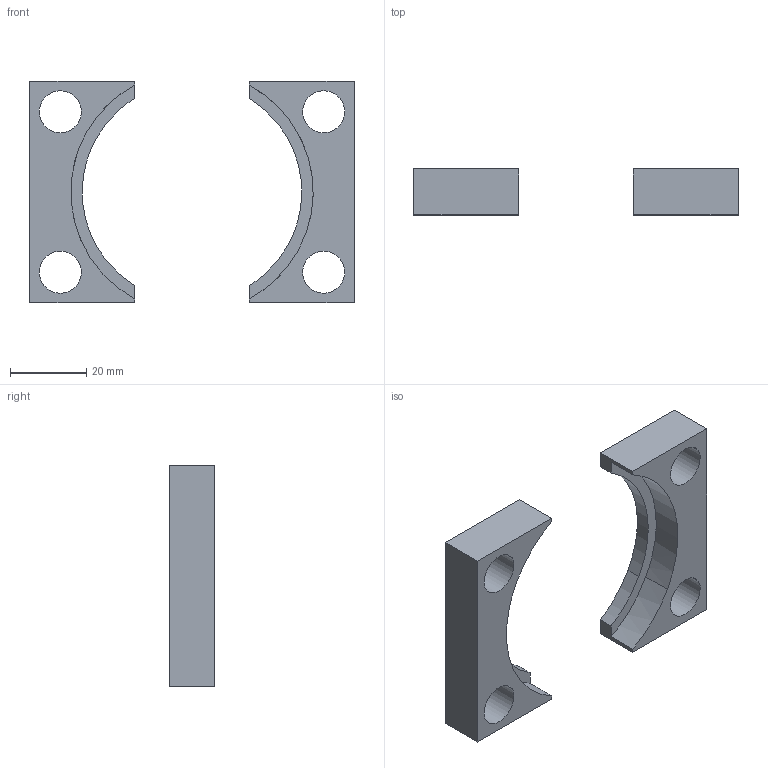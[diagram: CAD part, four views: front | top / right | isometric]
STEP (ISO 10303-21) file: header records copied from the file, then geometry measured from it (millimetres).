
FILE_DESCRIPTION(('CATIA V5 STEP Exchange'),'2;1');
FILE_NAME('W:\CATALOGO GENERAL 2018\FICHEROS CAD\023-BRIDAS\04-FPR\FPR 63.stp','2020-10-09T09:07:21+00:00',('none'),('none'),'CATIA Version 5 Release 17 (IN-10)','CATIA V5 STEP AP203','none');
FILE_SCHEMA(('CONFIG_CONTROL_DESIGN'));
Length unit declared in the file: millimetre
Products named in the file (1): FPR 63
Bounding box: 85 x 12 x 58 mm (x, y, z)
Volume: 19221.3 mm3; surface area: 9753.6 mm2
Topology: 2 solids, 2 shells, 32 faces, 84 edges, 56 vertices
Faces by surface type: cylinder 16, plane 16
Entity records: 1108 total; most frequent: CARTESIAN_POINT 307, ORIENTED_EDGE 168, DIRECTION 123, EDGE_CURVE 84, VERTEX_POINT 56, VECTOR 52, LINE 52, AXIS2_PLACEMENT_3D 46
